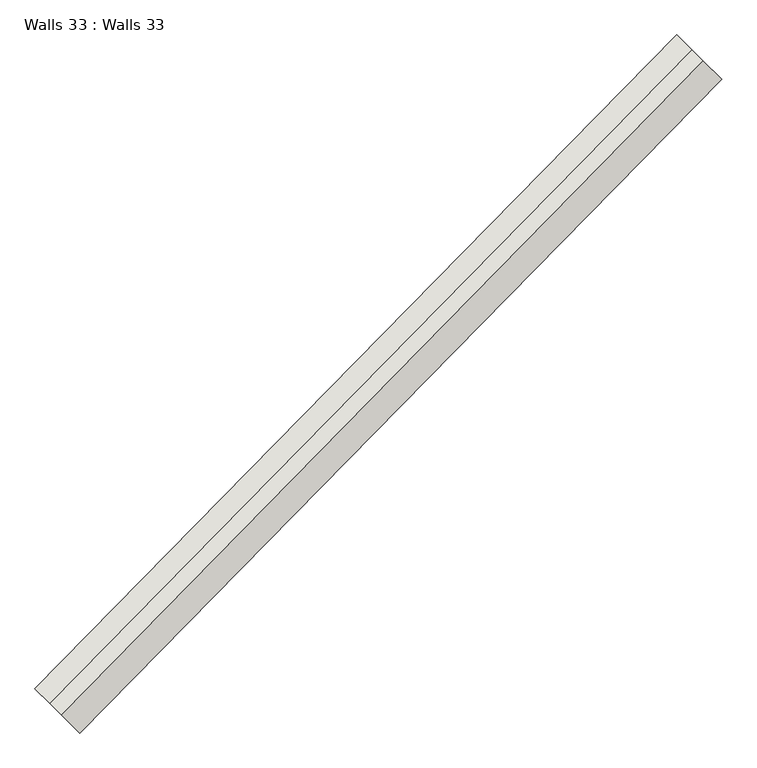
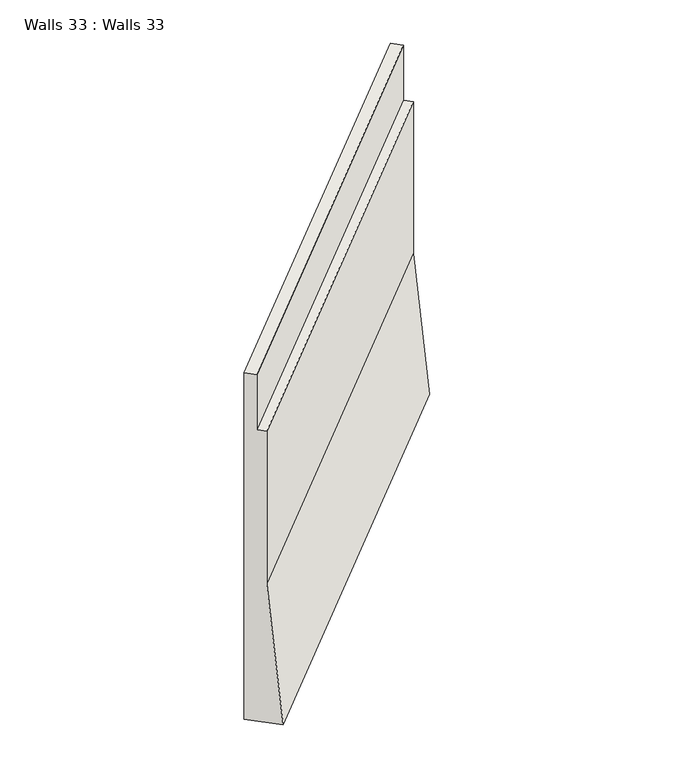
"""IFC4 building model written with IfcOpenShell, lengths in millimetres: wall geometry, Walls 33 : Walls 33."""

from ifc_helpers import new_model, si_unit, origin, place, context, project, spatial, faceted_brep, source, transform, mapped, element, save


def walls_33_walls_33_41fb58ca(model_context):
    return source(origin(), model_context, "Body", "Brep", [
        faceted_brep([(-190851.0853666, -349827.0440789, 642320.0), (-190851.0853666, -349827.0440789, 636050.0), (-190422.8648867, -350247.31699, 636050.0), (-190601.2913613, -350072.2020261, 638550.0), (-190601.2913613, -350072.2020261, 641320.0), (-190708.345935, -349967.1343344, 641320.0), (-190708.345935, -349967.1343344, 642320.0), (-184757.1459225, -343617.8652235, 642390.0), (-184614.4064909, -343757.9554791, 642390.0), (-184614.4064909, -343757.9554791, 641390.0), (-184507.3519171, -343863.0231707, 641390.0), (-184507.3519171, -343863.0231707, 638640.0), (-184328.9254426, -344038.1381347, 636140.0), (-184757.1459225, -343617.8652235, 636140.0)], [[[0, 1, 2, 3, 4, 5, 6]], [[7, 8, 9, 10, 11, 12, 13]], [[7, 13, 1, 0]], [[13, 12, 2, 1]], [[12, 11, 3, 2]], [[11, 10, 4, 3]], [[10, 9, 5, 4]], [[9, 8, 6, 5]], [[8, 7, 0, 6]]]),
    ])


if __name__ == "__main__":
    model = new_model("IFC4")
    model_context = context("Model", 3, world=origin())
    ifc_project = project(units=[si_unit("LENGTHUNIT", "METRE", prefix="MILLI")], contexts=[model_context])
    site = spatial("IfcSite", under=ifc_project)
    building = spatial("IfcBuilding", under=site)
    placement = place(None, origin())
    walls_33_walls_33_shape = walls_33_walls_33_41fb58ca(model_context)
    element("IfcWall", 1, ObjectType="Walls 33 : Walls 33", at=placement, inside=building, context=model_context, shape_type="MappedRepresentation", body=[
        mapped(walls_33_walls_33_shape, transform((0.0, 0.0, 0.0), x_axis=(1.0, 0.0, 0.0), y_axis=(0.0, 1.0, 0.0), z_axis=(0.0, 0.0, 1.0))),
    ])
    save(model, "model.ifc")
